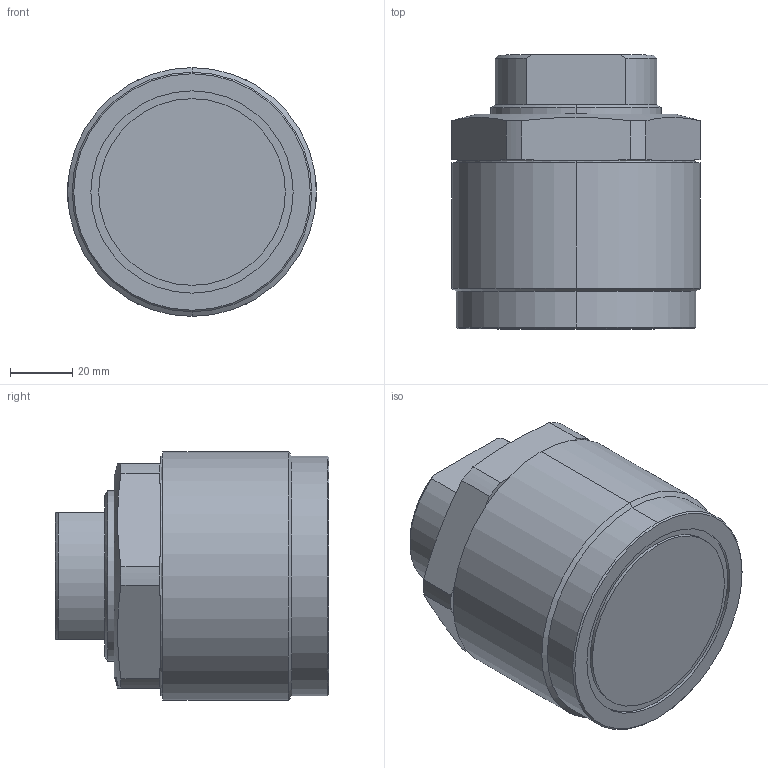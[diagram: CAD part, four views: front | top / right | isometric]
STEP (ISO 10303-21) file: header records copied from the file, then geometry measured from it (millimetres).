
FILE_DESCRIPTION (( 'STEP AP203' ), '1' );
FILE_NAME ('T03C-M608-S threaded pusher..STEP', '2022-07-09T17:48:59', ( '' ), ( '' ), 'SwSTEP 2.0', 'SolidWorks 2017', '' );
FILE_SCHEMA (( 'CONFIG_CONTROL_DESIGN' ));
Length unit declared in the file: millimetre
Products named in the file (3): T03C-M808-S part-2; T03C-M608-S threaded pusher.; T03C-M808-S part-1
Assembly tree (2 placements, depth 2):
  T03C-M608-S threaded pusher.
    T03C-M808-S part-1
    T03C-M808-S part-2
Bounding box: 80 x 88 x 80 mm (x, y, z)
Volume: 509646.6 mm3; surface area: 46404.7 mm2
Topology: 2 solids, 2 shells, 272 faces, 712 edges, 469 vertices
Faces by surface type: bspline 120, plane 112, cylinder 22, cone 18
Entity records: 14790 total; most frequent: CARTESIAN_POINT 8665, ORIENTED_EDGE 1420, DIRECTION 800, EDGE_CURVE 710, VERTEX_POINT 469, VECTOR 354, LINE 354, EDGE_LOOP 299
